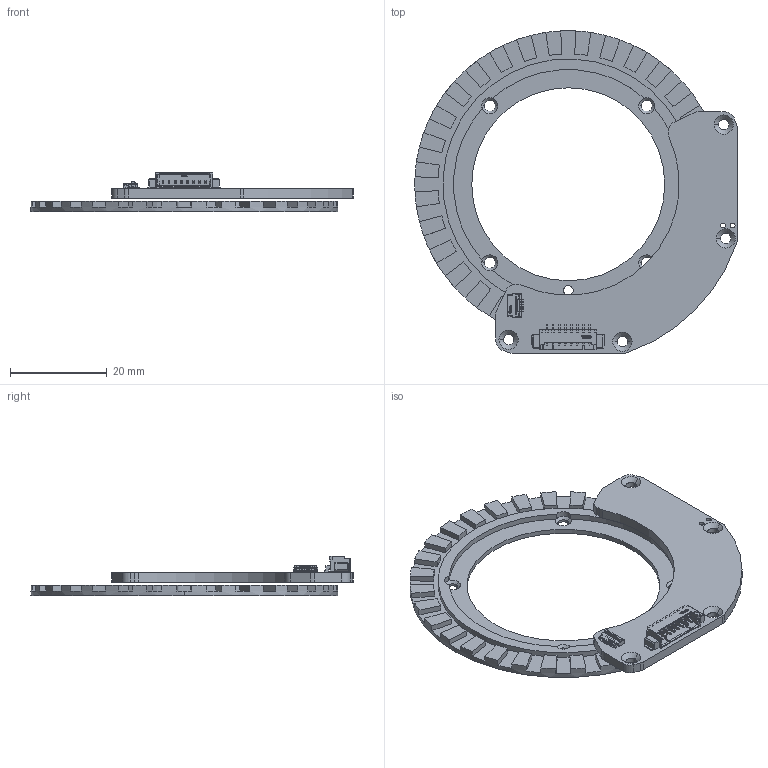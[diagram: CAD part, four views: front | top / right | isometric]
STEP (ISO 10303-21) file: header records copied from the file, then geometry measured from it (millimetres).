
FILE_DESCRIPTION((''),'2;1');
FILE_NAME('SAB064_REV_1_8_ASM','2025-05-06T',('ol'),(''),'PRO/ENGINEER BY PARAMETRIC TECHNOLOGY CORPORATION, 2017170','PRO/ENGINEER BY PARAMETRIC TECHNOLOGY CORPORATION, 2017170','');
FILE_SCHEMA(('CONFIG_CONTROL_DESIGN'));
Products named in the file (72): PRT0126_AF0; PRT0127; PRT0128; PRT0129; PRT0130; PRT0131; PRT0132; PRT0133; PRT0134; PRT0135; PRT0136; PRT0137; PRT0138; PRT0139; PRT0140; PRT0141; PRT0142; ASM0046_ASM; CN3_ASM_1_ASM; PRT0143; PRT0144; PRT0145; PRT0146; PRT0147; PRT0148; PRT0149; PRT0150; PRT0151; PRT0152; PRT0153; PRT0154; PRT0155; PRT0156; PRT0157; PRT0158; PRT0159; PRT0160; PRT0161; PRT0162; PRT0163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
Assembly tree (71 placements, depth 6):
  SAB064_REV_1_8_ASM
    SAB064_REV_1_8_ASM_ASM
      ASM0045_AF0_ASM
        PRT0126_AF0
        CN3_ASM_1_ASM
          ASM0046_ASM
            PRT0127
            PRT0128
            PRT0129
            PRT0130
            PRT0131
            PRT0132
            PRT0133
            PRT0134
            PRT0135
            PRT0136
            PRT0137
            PRT0138
            PRT0139
            PRT0140
            PRT0141
            PRT0142
        FPC3_ASM_1_ASM
          ASM0047_ASM
            PRT0143
            PRT0144
            PRT0145
            PRT0146
            PRT0147
            PRT0148
            PRT0149
            PRT0150
            PRT0151
            PRT0152
            PRT0153
            PRT0154
            PRT0155
            PRT0156
            PRT0157
            PRT0158
            PRT0159
            PRT0160
            PRT0161
            PRT0162
            PRT0163
            PRT0164
            PRT0165
            PRT0166
            PRT0167
            PRT0168
            PRT0169
            PRT0170
            PRT0171
            PRT0172
            PRT0173
            PRT0174
            PRT0175
            PRT0176
            PRT0177
            PRT0178
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Bounding box: 66.8 x 66.8 x 8.25 mm (x, y, z)
Volume: 4883.9 mm3; surface area: 7978.1 mm2
Topology: 65 solids, 65 shells, 1625 faces, 4297 edges, 2831 vertices
Faces by surface type: plane 1110, extrusion 250, cylinder 243, cone 16, bspline 4, sphere 2
Entity records: 61409 total; most frequent: CARTESIAN_POINT 20397, ORIENTED_EDGE 8590, DIRECTION 7420, EDGE_CURVE 4295, VECTOR 3506, LINE 3256, VERTEX_POINT 2831, AXIS2_PLACEMENT_3D 1957
